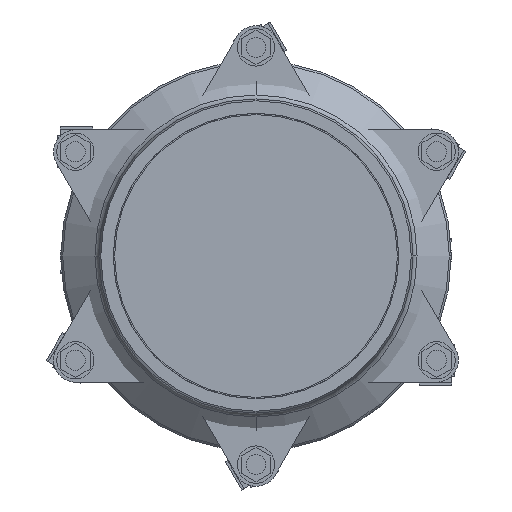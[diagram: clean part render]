
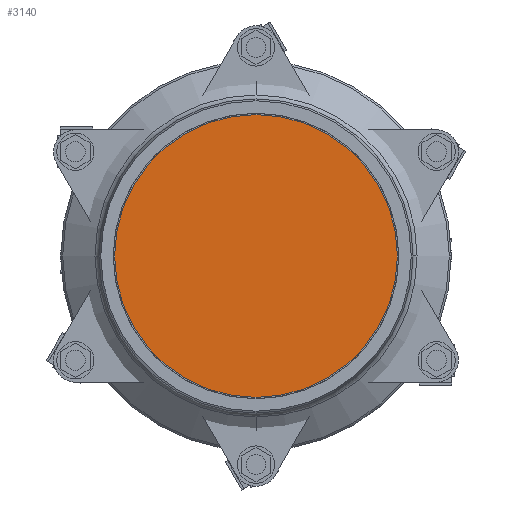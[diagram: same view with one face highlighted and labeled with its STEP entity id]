
A CAD part, left-side view. The second image highlights one B-rep face of the part: STEP entity #3140.
In plain terms, the highlighted planar face has unit normal (-1, 0, 0).
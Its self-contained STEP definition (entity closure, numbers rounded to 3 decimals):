
#3140=ADVANCED_FACE('',(#5739),#5740,.T.);
#5739=FACE_OUTER_BOUND('',#8536,.T.);
#5740=PLANE('',#8537);
#8536=EDGE_LOOP('',(#14227,#14228));
#8537=AXIS2_PLACEMENT_3D('',#14229,#14230,#14231);
#14227=ORIENTED_EDGE('',*,*,#15931,.T.);
#14228=ORIENTED_EDGE('',*,*,#17316,.T.);
#14229=CARTESIAN_POINT('',(27.5,0.0,0.0));
#14230=DIRECTION('',(-1.0,0.0,0.));
#14231=DIRECTION('',(0.,0.0,1.0));
#15931=EDGE_CURVE('',#18966,#18971,#18973,.T.);
#17316=EDGE_CURVE('',#18971,#18966,#20793,.T.);
#18966=VERTEX_POINT('',#22953);
#18971=VERTEX_POINT('',#22959);
#18973=CIRCLE('',#22962,126.5);
#20793=CIRCLE('',#25420,126.5);
#22953=CARTESIAN_POINT('',(27.5,0.0,-126.5));
#22959=CARTESIAN_POINT('',(27.5,0.,126.5));
#22962=AXIS2_PLACEMENT_3D('',#26631,#26632,#26633);
#25420=AXIS2_PLACEMENT_3D('',#27977,#27978,#27979);
#26631=CARTESIAN_POINT('',(27.5,0.0,0.0));
#26632=DIRECTION('',(-1.0,0.0,0.));
#26633=DIRECTION('',(0.,0.0,-1.0));
#27977=CARTESIAN_POINT('',(27.5,0.0,0.0));
#27978=DIRECTION('',(-1.0,0.0,0.));
#27979=DIRECTION('',(0.,0.0,-1.0));
